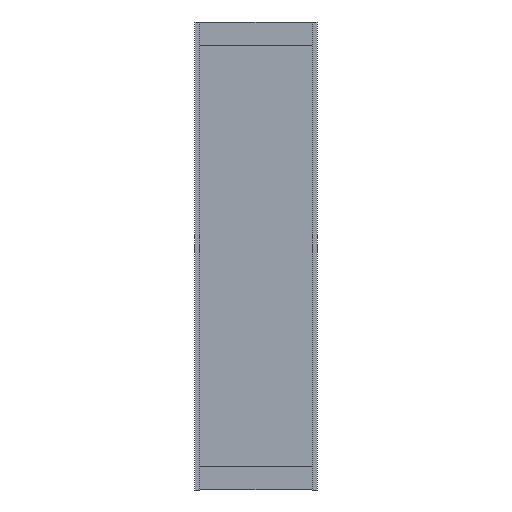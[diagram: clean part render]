
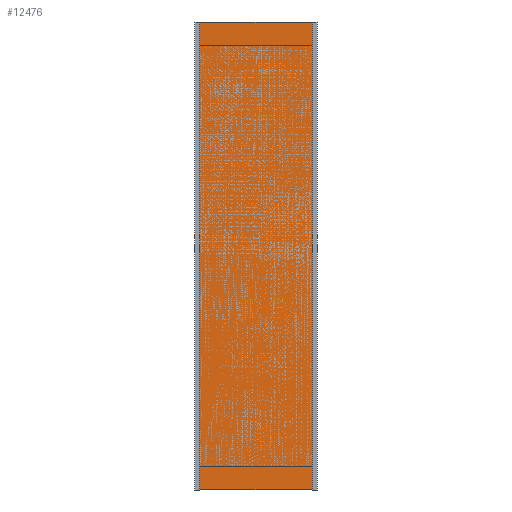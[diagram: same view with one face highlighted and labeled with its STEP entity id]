
A CAD part, front view. The second image highlights one B-rep face of the part: STEP entity #12476.
In plain terms, the highlighted planar face has unit normal (0, -1, 0) as drawn and (0, 1, 0) by its records, which use the part's own axes.
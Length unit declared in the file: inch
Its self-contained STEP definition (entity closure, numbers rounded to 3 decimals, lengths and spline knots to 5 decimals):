
#12397=DIRECTION('',(1.,0.,0.));
#12398=VECTOR('',#12397,29.875);
#12399=CARTESIAN_POINT('',(-14.9375,0.,0.));
#12400=LINE('',#12399,#12398);
#12401=DIRECTION('',(0.,0.,1.));
#12402=VECTOR('',#12401,119.75);
#12403=CARTESIAN_POINT('',(-14.9375,0.,-119.75));
#12404=LINE('',#12403,#12402);
#12405=DIRECTION('',(-1.,0.,0.));
#12406=VECTOR('',#12405,29.875);
#12407=CARTESIAN_POINT('',(14.9375,0.,-119.75));
#12408=LINE('',#12407,#12406);
#12409=DIRECTION('',(0.,0.,-1.));
#12410=VECTOR('',#12409,119.75);
#12411=CARTESIAN_POINT('',(14.9375,0.,0.));
#12412=LINE('',#12411,#12410);
#12445=CARTESIAN_POINT('',(-14.9375,0.,0.));
#12446=CARTESIAN_POINT('',(14.9375,0.,0.));
#12447=VERTEX_POINT('',#12445);
#12448=VERTEX_POINT('',#12446);
#12449=CARTESIAN_POINT('',(14.9375,0.,-119.75));
#12450=VERTEX_POINT('',#12449);
#12451=CARTESIAN_POINT('',(-14.9375,0.,-119.75));
#12452=VERTEX_POINT('',#12451);
#12461=CARTESIAN_POINT('',(0.,0.,0.));
#12462=DIRECTION('',(0.,1.,0.));
#12463=DIRECTION('',(1.,0.,0.));
#12464=AXIS2_PLACEMENT_3D('',#12461,#12462,#12463);
#12465=PLANE('',#12464);
#12467=ORIENTED_EDGE('',*,*,#12466,.F.);
#12469=ORIENTED_EDGE('',*,*,#12468,.F.);
#12471=ORIENTED_EDGE('',*,*,#12470,.F.);
#12473=ORIENTED_EDGE('',*,*,#12472,.F.);
#12474=EDGE_LOOP('',(#12467,#12469,#12471,#12473));
#12475=FACE_OUTER_BOUND('',#12474,.F.);
#12476=ADVANCED_FACE('',(#12475),#12465,.T.);
#12466=EDGE_CURVE('',#12447,#12448,#12400,.T.);
#12468=EDGE_CURVE('',#12452,#12447,#12404,.T.);
#12470=EDGE_CURVE('',#12450,#12452,#12408,.T.);
#12472=EDGE_CURVE('',#12448,#12450,#12412,.T.);
